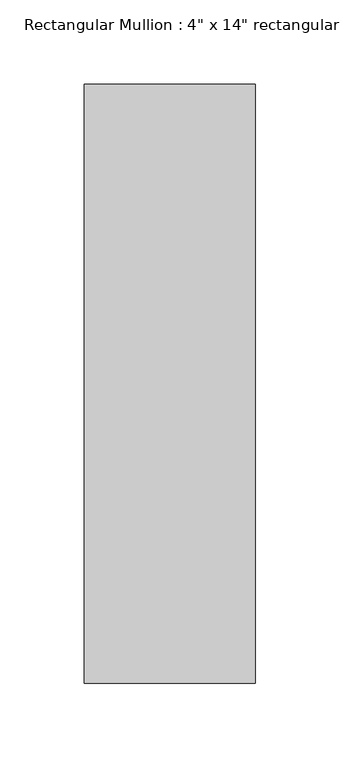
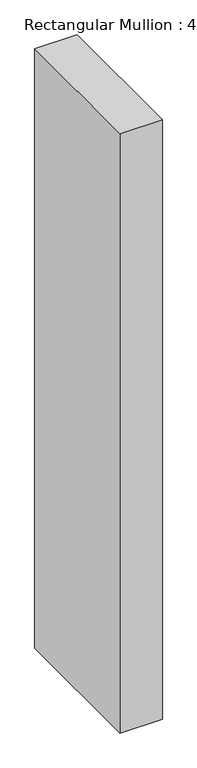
"""IFC4 building model written with IfcOpenShell, lengths in millimetres: member geometry."""

from ifc_helpers import new_model, si_unit, frame, origin, place, context, project, spatial, polyline, outline, extrude, source, transform, mapped, element, save


def member_65b7e209(model_context):
    return source(origin(), model_context, "Body", "SweptSolid", [
        extrude(outline(polyline([(50.8, 63.5), (50.8, -292.1), (-50.8, -292.1), (-50.8, 63.5), (50.8, 63.5)])), frame((0.0, 0.0, -1524.0), z_axis=(0.0, 0.0, 1.0), x_axis=(1.0, 0.0, 0.0)), (0.0, 0.0, 1.0), 1524.0),
    ])


if __name__ == "__main__":
    model = new_model("IFC4")
    model_context = context("Model", 3, world=origin())
    ifc_project = project(units=[si_unit("LENGTHUNIT", "METRE", prefix="MILLI")], contexts=[model_context])
    site = spatial("IfcSite", under=ifc_project)
    building = spatial("IfcBuilding", under=site)
    placement = place(None, origin())
    member_shape = member_65b7e209(model_context)
    element("IfcMember", 1, ObjectType="Rectangular Mullion : 4\" x 14\" rectangular", at=placement, inside=building, context=model_context, shape_type="MappedRepresentation", body=[
        mapped(member_shape, transform((0.0, 0.0, 0.0), x_axis=(1.0, 0.0, 0.0), y_axis=(0.0, 1.0, 0.0), z_axis=(0.0, 0.0, 1.0))),
    ])
    save(model, "model.ifc")
